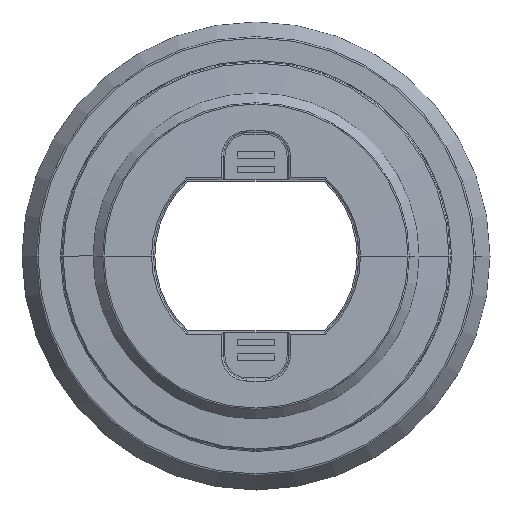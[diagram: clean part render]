
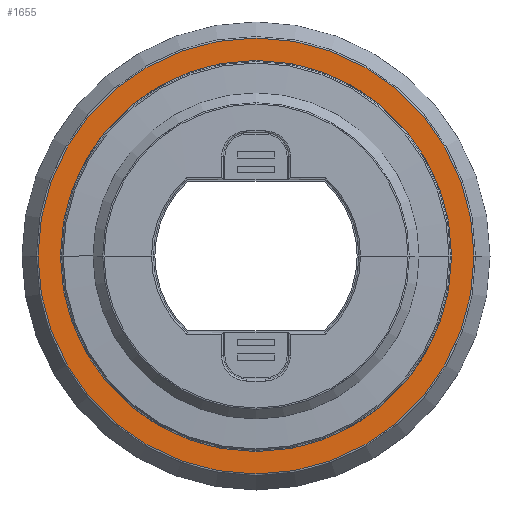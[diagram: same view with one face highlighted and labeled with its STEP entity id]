
A CAD part, front view. The second image highlights one B-rep face of the part: STEP entity #1655.
In plain terms, the highlighted free-form (B-spline) face has degree [1, 1] with [2, 2] control points.
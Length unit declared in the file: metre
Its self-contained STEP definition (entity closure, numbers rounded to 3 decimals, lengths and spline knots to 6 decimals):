
#267=B_SPLINE_SURFACE_WITH_KNOTS('',1,1,((#3478,#3479),(#3480,#3481)),
 .PLANE_SURF.,.F.,.F.,.F.,(2,2),(2,2),(0.042732,0.954562),
(0.043879,0.958058),.PIECEWISE_BEZIER_KNOTS.);
#631=ORIENTED_EDGE('',*,*,#869,.F.);
#632=ORIENTED_EDGE('',*,*,#1009,.F.);
#633=ORIENTED_EDGE('',*,*,#872,.F.);
#634=ORIENTED_EDGE('',*,*,#1008,.F.);
#869=EDGE_CURVE('',#1115,#1116,#1265,.T.);
#872=EDGE_CURVE('',#1117,#1118,#1266,.F.);
#1008=EDGE_CURVE('',#1118,#1117,#1313,.F.);
#1009=EDGE_CURVE('',#1116,#1115,#1314,.T.);
#1115=VERTEX_POINT('',#2141);
#1116=VERTEX_POINT('',#2142);
#1117=VERTEX_POINT('',#2180);
#1118=VERTEX_POINT('',#2181);
#1265=CIRCLE('',#1736,0.0955);
#1266=CIRCLE('',#1737,0.085687);
#1313=CIRCLE('',#1784,0.085687);
#1314=CIRCLE('',#1785,0.0955);
#1386=EDGE_LOOP('',(#631,#632));
#1387=EDGE_LOOP('',(#633,#634));
#1500=FACE_BOUND('',#1386,.T.);
#1501=FACE_BOUND('',#1387,.T.);
#1655=ADVANCED_FACE('',(#1500,#1501),#267,.T.);
#1736=AXIS2_PLACEMENT_3D('',#2140,#1813,#1814);
#1737=AXIS2_PLACEMENT_3D('',#2179,#1815,#1816);
#1784=AXIS2_PLACEMENT_3D('',#3477,#1947,#1948);
#1785=AXIS2_PLACEMENT_3D('',#3482,#1949,#1950);
#1813=DIRECTION('',(0.,1.,0.));
#1814=DIRECTION('',(1.,0.,0.));
#1815=DIRECTION('',(0.,1.,0.));
#1816=DIRECTION('',(1.,0.,0.));
#1947=DIRECTION('',(0.,1.,0.));
#1948=DIRECTION('',(1.,0.,0.));
#1949=DIRECTION('',(0.,1.,0.));
#1950=DIRECTION('',(1.,0.,0.));
#2140=CARTESIAN_POINT('',(0.,-0.025779,0.));
#2141=CARTESIAN_POINT('',(0.0955,-0.025779,0.));
#2142=CARTESIAN_POINT('',(-0.0955,-0.025779,0.));
#2179=CARTESIAN_POINT('',(0.,-0.025779,0.));
#2180=CARTESIAN_POINT('',(0.085687,-0.025779,0.));
#2181=CARTESIAN_POINT('',(-0.085687,-0.025779,0.));
#3477=CARTESIAN_POINT('',(0.,-0.025779,0.));
#3478=CARTESIAN_POINT('',(-0.097225,-0.025779,-0.096981));
#3479=CARTESIAN_POINT('',(-0.097225,-0.025779,0.097393));
#3480=CARTESIAN_POINT('',(0.096649,-0.025779,-0.096981));
#3481=CARTESIAN_POINT('',(0.096649,-0.025779,0.097393));
#3482=CARTESIAN_POINT('',(0.,-0.025779,0.));
